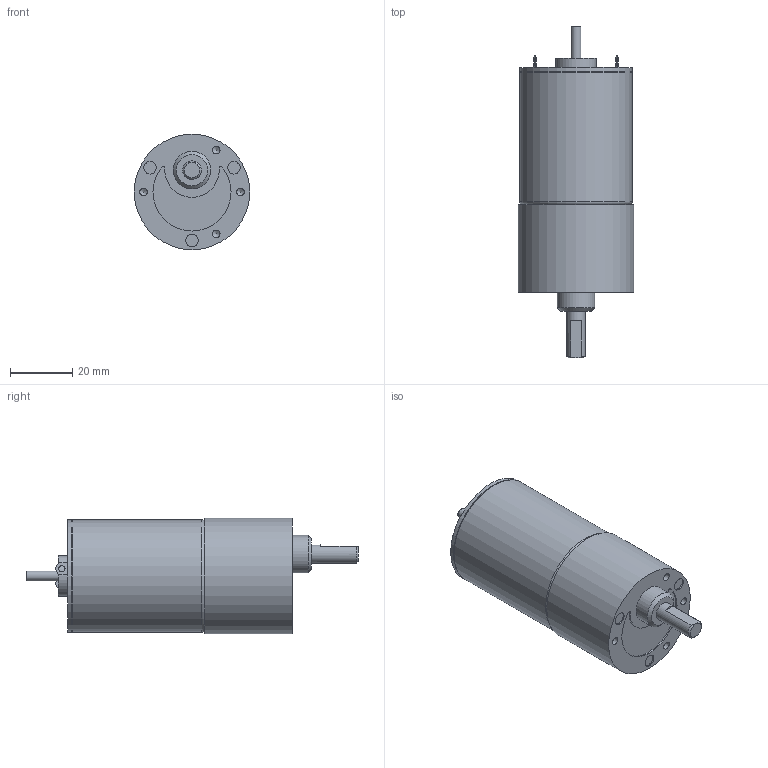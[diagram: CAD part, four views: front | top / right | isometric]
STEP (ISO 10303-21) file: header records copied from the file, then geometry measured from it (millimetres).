
FILE_DESCRIPTION((''),'2;1');
FILE_NAME('C:\Documents and Settings\SSEGAWA\デスクトップ\TP-3644L-KM-4.STP','2013-07-26T18:42:44',('SSEGAWA'),(''),'Autodesk Inventor 2010','Autodesk Inventor 2010','');
FILE_SCHEMA(('CONFIG_CONTROL_DESIGN'));
Length unit declared in the file: millimetre
Products named in the file (1): tp_3644l_km_4_Shrinkwrap_1
Bounding box: 37 x 106.3 x 37 mm (x, y, z)
Volume: 76129.8 mm3; surface area: 11632 mm2
Topology: 1 solids, 4 shells, 67 faces, 141 edges, 94 vertices
Faces by surface type: plane 28, cylinder 19, bspline 16, torus 2, cone 2
Full cylindrical faces by diameter (mm): 3 x1, 3.175 x1, 3.5 x1, 4 x3, 6 x1, 12 x1, 13 x1, 35.6 x1, 36 x2, 37 x1
Entity records: 1793 total; most frequent: CARTESIAN_POINT 509, DIRECTION 253, ORIENTED_EDGE 180, EDGE_LOOP 115, AXIS2_PLACEMENT_3D 113, EDGE_CURVE 90, VERTEX_POINT 75, STYLED_ITEM 68
